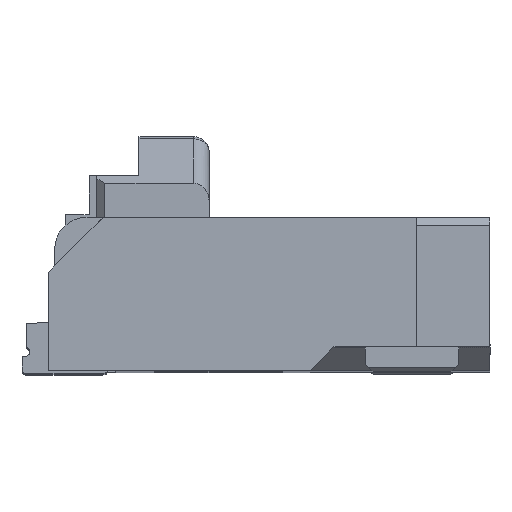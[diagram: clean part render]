
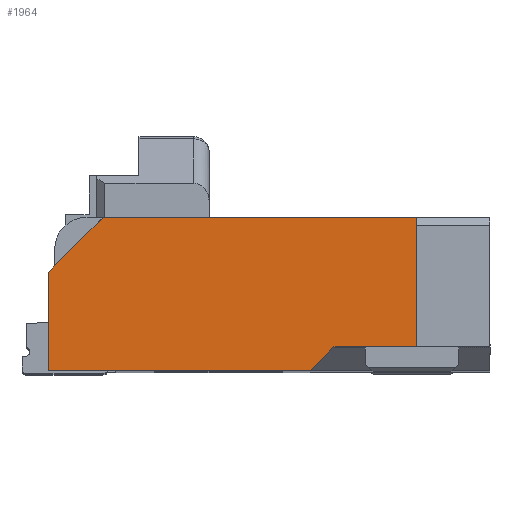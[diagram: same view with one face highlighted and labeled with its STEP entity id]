
A CAD part, top view. The second image highlights one B-rep face of the part: STEP entity #1964.
In plain terms, the highlighted planar face has unit normal (0, 0, 1).
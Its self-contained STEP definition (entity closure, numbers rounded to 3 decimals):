
#151 = ORIENTED_EDGE ( 'NONE', *, *, #8594, .T. ) ;
#245 = ORIENTED_EDGE ( 'NONE', *, *, #8592, .F. ) ;
#322 = ORIENTED_EDGE ( 'NONE', *, *, #8593, .T. ) ;
#324 = ORIENTED_EDGE ( 'NONE', *, *, #3792, .F. ) ;
#408 = ORIENTED_EDGE ( 'NONE', *, *, #3769, .T. ) ;
#561 = ORIENTED_EDGE ( 'NONE', *, *, #3804, .T. ) ;
#854 = ORIENTED_EDGE ( 'NONE', *, *, #3811, .T. ) ;
#1204 = VERTEX_POINT ( 'NONE', #11242 ) ;
#1319 = VERTEX_POINT ( 'NONE', #9646 ) ;
#1964 = ADVANCED_FACE ( 'NONE', ( #8180 ), #12404, .F. ) ;
#3769 = EDGE_CURVE ( 'NONE', #5987, #5989, #20514, .T. ) ;
#3792 = EDGE_CURVE ( 'NONE', #5707, #5989, #20560, .T. ) ;
#3804 = EDGE_CURVE ( 'NONE', #5708, #5714, #20584, .T. ) ;
#3811 = EDGE_CURVE ( 'NONE', #5714, #5987, #20598, .T. ) ;
#5107 = EDGE_LOOP ( 'NONE', ( #245, #322, #151, #561, #854, #408, #324 ) ) ;
#5707 = VERTEX_POINT ( 'NONE', #23475 ) ;
#5708 = VERTEX_POINT ( 'NONE', #23476 ) ;
#5714 = VERTEX_POINT ( 'NONE', #23482 ) ;
#5987 = VERTEX_POINT ( 'NONE', #23755 ) ;
#5989 = VERTEX_POINT ( 'NONE', #23757 ) ;
#8180 = FACE_OUTER_BOUND ( 'NONE', #5107, .T. ) ;
#8592 = EDGE_CURVE ( 'NONE', #1204, #5707, #23006, .T. ) ;
#8593 = EDGE_CURVE ( 'NONE', #1204, #1319, #23008, .T. ) ;
#8594 = EDGE_CURVE ( 'NONE', #1319, #5708, #23010, .T. ) ;
#9248 = AXIS2_PLACEMENT_3D ( 'NONE', #12405, #12410, #12411 ) ;
#9646 = CARTESIAN_POINT ( 'NONE',  ( 0.52, 1., 4.35 ) ) ;
#11242 = CARTESIAN_POINT ( 'NONE',  ( 2.53, 1., 4.35 ) ) ;
#12404 = PLANE ( 'NONE',  #9248 ) ;
#12405 = CARTESIAN_POINT ( 'NONE',  ( 3., 0.53, 4.35 ) ) ;
#12410 = DIRECTION ( 'NONE',  ( 0., 0., -1. ) ) ;
#12411 = DIRECTION ( 'NONE',  ( -1., 0., 0. ) ) ;
#20514 = LINE ( 'NONE', #21126, #20517 ) ;
#20517 = VECTOR ( 'NONE', #21128, 1000. ) ;
#20560 = LINE ( 'NONE', #21172, #20563 ) ;
#20563 = VECTOR ( 'NONE', #21173, 1000. ) ;
#20584 = LINE ( 'NONE', #21196, #20587 ) ;
#20587 = VECTOR ( 'NONE', #21197, 1000. ) ;
#20598 = LINE ( 'NONE', #21210, #20601 ) ;
#20601 = VECTOR ( 'NONE', #21211, 1000. ) ;
#21126 = CARTESIAN_POINT ( 'NONE',  ( 2., 0.17, 4.35 ) ) ;
#21128 = DIRECTION ( 'NONE',  ( 0.707, 0.707, 0. ) ) ;
#21172 = CARTESIAN_POINT ( 'NONE',  ( 3., 0.17, 4.35 ) ) ;
#21173 = DIRECTION ( 'NONE',  ( -1., 0., 0. ) ) ;
#21196 = CARTESIAN_POINT ( 'NONE',  ( 0.17, 0.02, 4.35 ) ) ;
#21197 = DIRECTION ( 'NONE',  ( 0., -1., 0. ) ) ;
#21210 = CARTESIAN_POINT ( 'NONE',  ( 0.17, 0.02, 4.35 ) ) ;
#21211 = DIRECTION ( 'NONE',  ( 1., 0., 0. ) ) ;
#23006 = LINE ( 'NONE', #26058, #23009 ) ;
#23008 = LINE ( 'NONE', #26060, #23011 ) ;
#23009 = VECTOR ( 'NONE', #26059, 1000. ) ;
#23010 = LINE ( 'NONE', #26062, #23013 ) ;
#23011 = VECTOR ( 'NONE', #26061, 1000. ) ;
#23013 = VECTOR ( 'NONE', #26063, 1000. ) ;
#23475 = CARTESIAN_POINT ( 'NONE',  ( 2.53, 0.17, 4.35 ) ) ;
#23476 = CARTESIAN_POINT ( 'NONE',  ( 0.17, 0.65, 4.35 ) ) ;
#23482 = CARTESIAN_POINT ( 'NONE',  ( 0.17, 0.02, 4.35 ) ) ;
#23755 = CARTESIAN_POINT ( 'NONE',  ( 1.85, 0.02, 4.35 ) ) ;
#23757 = CARTESIAN_POINT ( 'NONE',  ( 2., 0.17, 4.35 ) ) ;
#26058 = CARTESIAN_POINT ( 'NONE',  ( 2.53, 1., 4.35 ) ) ;
#26059 = DIRECTION ( 'NONE',  ( 0., -1., 0. ) ) ;
#26060 = CARTESIAN_POINT ( 'NONE',  ( 1.2, 1., 4.35 ) ) ;
#26061 = DIRECTION ( 'NONE',  ( -1., 0., 0. ) ) ;
#26062 = CARTESIAN_POINT ( 'NONE',  ( 0.52, 1., 4.35 ) ) ;
#26063 = DIRECTION ( 'NONE',  ( -0.707, -0.707, 0. ) ) ;
